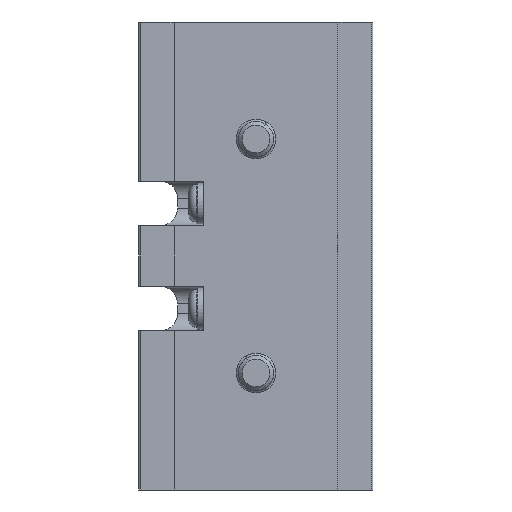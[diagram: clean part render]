
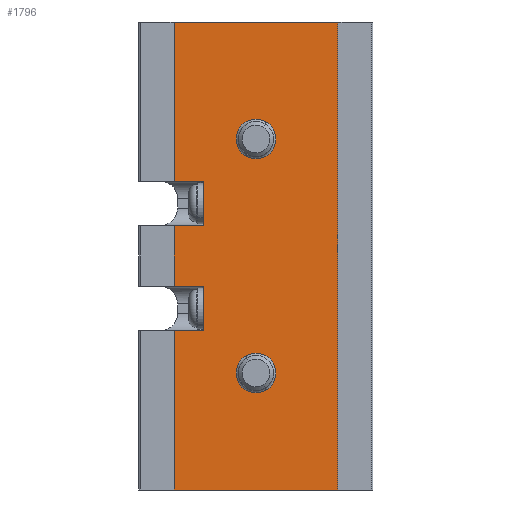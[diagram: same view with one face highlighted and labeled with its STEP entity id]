
A CAD part, front view. The second image highlights one B-rep face of the part: STEP entity #1796.
In plain terms, the highlighted planar face has unit normal (0, -1, 0).
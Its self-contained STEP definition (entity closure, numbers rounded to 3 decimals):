
#98 = LINE ( 'NONE', #1856, #3465 ) ;
#125 = LINE ( 'NONE', #11456, #5906 ) ;
#330 = CARTESIAN_POINT ( 'NONE',  ( 17., 0.05, 0. ) ) ;
#402 = CARTESIAN_POINT ( 'NONE',  ( 17., 0.05, 0. ) ) ;
#455 = EDGE_LOOP ( 'NONE', ( #9338, #3541 ) ) ;
#523 = EDGE_CURVE ( 'NONE', #3437, #1752, #8543, .T. ) ;
#588 = VERTEX_POINT ( 'NONE', #1415 ) ;
#723 = EDGE_CURVE ( 'NONE', #11069, #3855, #9045, .T. ) ;
#743 = CARTESIAN_POINT ( 'NONE',  ( 5.5, 0.05, 22.6 ) ) ;
#766 = CARTESIAN_POINT ( 'NONE',  ( 10., 0.05, 30. ) ) ;
#930 = ORIENTED_EDGE ( 'NONE', *, *, #11162, .T. ) ;
#1112 = VERTEX_POINT ( 'NONE', #11098 ) ;
#1276 = EDGE_CURVE ( 'NONE', #1112, #2395, #10818, .T. ) ;
#1371 = VECTOR ( 'NONE', #9632, 1000. ) ;
#1415 = CARTESIAN_POINT ( 'NONE',  ( 3., 0.05, 13.6 ) ) ;
#1487 = FACE_BOUND ( 'NONE', #7144, .T. ) ;
#1752 = VERTEX_POINT ( 'NONE', #5232 ) ;
#1796 = ADVANCED_FACE ( 'NONE', ( #9274, #1487, #5557 ), #7708, .F. ) ;
#1856 = CARTESIAN_POINT ( 'NONE',  ( 17., 0.05, 22.6 ) ) ;
#2174 = LINE ( 'NONE', #7062, #7511 ) ;
#2395 = VERTEX_POINT ( 'NONE', #7701 ) ;
#2406 = DIRECTION ( 'NONE',  ( 0., 0., -1. ) ) ;
#2436 = LINE ( 'NONE', #6234, #4003 ) ;
#2454 = CARTESIAN_POINT ( 'NONE',  ( 17., 0.05, 26.4 ) ) ;
#2558 = EDGE_CURVE ( 'NONE', #588, #11069, #13138, .T. ) ;
#2614 = DIRECTION ( 'NONE',  ( 1., 0., 0. ) ) ;
#2782 = LINE ( 'NONE', #4373, #8889 ) ;
#2853 = DIRECTION ( 'NONE',  ( 0., 0., 1. ) ) ;
#2863 = EDGE_CURVE ( 'NONE', #14311, #3437, #98, .T. ) ;
#2991 = ORIENTED_EDGE ( 'NONE', *, *, #9724, .F. ) ;
#3067 = CARTESIAN_POINT ( 'NONE',  ( 10., 0.05, 30. ) ) ;
#3082 = EDGE_CURVE ( 'NONE', #11553, #3429, #2436, .T. ) ;
#3429 = VERTEX_POINT ( 'NONE', #7356 ) ;
#3437 = VERTEX_POINT ( 'NONE', #11355 ) ;
#3465 = VECTOR ( 'NONE', #6427, 1000. ) ;
#3541 = ORIENTED_EDGE ( 'NONE', *, *, #9059, .T. ) ;
#3560 = VERTEX_POINT ( 'NONE', #10242 ) ;
#3615 = CIRCLE ( 'NONE', #16092, 1.7 ) ;
#3845 = CARTESIAN_POINT ( 'NONE',  ( 3., 0.05, 40. ) ) ;
#3855 = VERTEX_POINT ( 'NONE', #330 ) ;
#4003 = VECTOR ( 'NONE', #2853, 1000. ) ;
#4016 = EDGE_CURVE ( 'NONE', #588, #11553, #125, .T. ) ;
#4338 = CARTESIAN_POINT ( 'NONE',  ( 10., 0.05, 10. ) ) ;
#4373 = CARTESIAN_POINT ( 'NONE',  ( 17., 0.05, 40. ) ) ;
#4531 = CARTESIAN_POINT ( 'NONE',  ( 3., 0.05, 40. ) ) ;
#4560 = ORIENTED_EDGE ( 'NONE', *, *, #5608, .T. ) ;
#4601 = EDGE_CURVE ( 'NONE', #11779, #12522, #9069, .T. ) ;
#4700 = DIRECTION ( 'NONE',  ( 0., 1., 0. ) ) ;
#5180 = AXIS2_PLACEMENT_3D ( 'NONE', #14370, #10691, #8112 ) ;
#5232 = CARTESIAN_POINT ( 'NONE',  ( 3., 0.05, 17.4 ) ) ;
#5238 = ORIENTED_EDGE ( 'NONE', *, *, #16389, .T. ) ;
#5263 = DIRECTION ( 'NONE',  ( -1., 0., 0. ) ) ;
#5272 = VERTEX_POINT ( 'NONE', #11169 ) ;
#5441 = VECTOR ( 'NONE', #7753, 1000. ) ;
#5525 = ORIENTED_EDGE ( 'NONE', *, *, #4016, .F. ) ;
#5557 = FACE_OUTER_BOUND ( 'NONE', #11680, .T. ) ;
#5608 = EDGE_CURVE ( 'NONE', #13531, #5272, #13803, .T. ) ;
#5906 = VECTOR ( 'NONE', #8854, 1000. ) ;
#6075 = DIRECTION ( 'NONE',  ( -1., 0., 0. ) ) ;
#6167 = VECTOR ( 'NONE', #2614, 1000. ) ;
#6234 = CARTESIAN_POINT ( 'NONE',  ( 5.5, 0.05, 40. ) ) ;
#6427 = DIRECTION ( 'NONE',  ( -1., 0., 0. ) ) ;
#6634 = AXIS2_PLACEMENT_3D ( 'NONE', #766, #4700, #6075 ) ;
#6899 = DIRECTION ( 'NONE',  ( 0., 0., -1. ) ) ;
#6942 = ORIENTED_EDGE ( 'NONE', *, *, #9299, .F. ) ;
#7062 = CARTESIAN_POINT ( 'NONE',  ( 17., 0.05, 40. ) ) ;
#7144 = EDGE_LOOP ( 'NONE', ( #4560, #930 ) ) ;
#7356 = CARTESIAN_POINT ( 'NONE',  ( 5.5, 0.05, 17.4 ) ) ;
#7511 = VECTOR ( 'NONE', #6899, 1000. ) ;
#7701 = CARTESIAN_POINT ( 'NONE',  ( 10., 0.05, 8.3 ) ) ;
#7708 = PLANE ( 'NONE',  #5180 ) ;
#7725 = ORIENTED_EDGE ( 'NONE', *, *, #3082, .F. ) ;
#7753 = DIRECTION ( 'NONE',  ( -1., 0., 0. ) ) ;
#7988 = ORIENTED_EDGE ( 'NONE', *, *, #2863, .T. ) ;
#8112 = DIRECTION ( 'NONE',  ( -1., 0., 0. ) ) ;
#8322 = VECTOR ( 'NONE', #10541, 1000. ) ;
#8348 = ORIENTED_EDGE ( 'NONE', *, *, #2558, .T. ) ;
#8543 = LINE ( 'NONE', #4531, #1371 ) ;
#8590 = CARTESIAN_POINT ( 'NONE',  ( 5.5, 0.05, 40. ) ) ;
#8854 = DIRECTION ( 'NONE',  ( 1., 0., 0. ) ) ;
#8889 = VECTOR ( 'NONE', #9398, 1000. ) ;
#9045 = LINE ( 'NONE', #402, #16492 ) ;
#9059 = EDGE_CURVE ( 'NONE', #2395, #1112, #3615, .T. ) ;
#9068 = CARTESIAN_POINT ( 'NONE',  ( 5.5, 0.05, 13.6 ) ) ;
#9069 = LINE ( 'NONE', #2454, #6167 ) ;
#9112 = DIRECTION ( 'NONE',  ( -1., 0., 0. ) ) ;
#9274 = FACE_BOUND ( 'NONE', #455, .T. ) ;
#9299 = EDGE_CURVE ( 'NONE', #14311, #12522, #16385, .T. ) ;
#9338 = ORIENTED_EDGE ( 'NONE', *, *, #1276, .T. ) ;
#9361 = DIRECTION ( 'NONE',  ( 0., 1., 0. ) ) ;
#9398 = DIRECTION ( 'NONE',  ( 1., 0., 0. ) ) ;
#9632 = DIRECTION ( 'NONE',  ( 0., 0., -1. ) ) ;
#9724 = EDGE_CURVE ( 'NONE', #3429, #1752, #14086, .T. ) ;
#9798 = ORIENTED_EDGE ( 'NONE', *, *, #523, .T. ) ;
#10114 = CIRCLE ( 'NONE', #10670, 1.7 ) ;
#10242 = CARTESIAN_POINT ( 'NONE',  ( 17., 0.05, 40. ) ) ;
#10541 = DIRECTION ( 'NONE',  ( 0., 0., -1. ) ) ;
#10670 = AXIS2_PLACEMENT_3D ( 'NONE', #3067, #13185, #5263 ) ;
#10691 = DIRECTION ( 'NONE',  ( 0., 1., 0. ) ) ;
#10818 = CIRCLE ( 'NONE', #14284, 1.7 ) ;
#11069 = VERTEX_POINT ( 'NONE', #16113 ) ;
#11098 = CARTESIAN_POINT ( 'NONE',  ( 10., 0.05, 11.7 ) ) ;
#11162 = EDGE_CURVE ( 'NONE', #5272, #13531, #10114, .T. ) ;
#11169 = CARTESIAN_POINT ( 'NONE',  ( 10., 0.05, 28.3 ) ) ;
#11355 = CARTESIAN_POINT ( 'NONE',  ( 3., 0.05, 22.6 ) ) ;
#11366 = CARTESIAN_POINT ( 'NONE',  ( 3., 0.05, 40. ) ) ;
#11436 = DIRECTION ( 'NONE',  ( 0., 1., 0. ) ) ;
#11456 = CARTESIAN_POINT ( 'NONE',  ( 17., 0.05, 13.6 ) ) ;
#11553 = VERTEX_POINT ( 'NONE', #9068 ) ;
#11680 = EDGE_LOOP ( 'NONE', ( #6942, #7988, #9798, #2991, #7725, #5525, #8348, #13994, #15182, #13465, #5238, #15380 ) ) ;
#11779 = VERTEX_POINT ( 'NONE', #13810 ) ;
#12037 = EDGE_CURVE ( 'NONE', #3560, #3855, #2174, .T. ) ;
#12099 = VECTOR ( 'NONE', #13692, 1000. ) ;
#12522 = VERTEX_POINT ( 'NONE', #13192 ) ;
#12683 = DIRECTION ( 'NONE',  ( -1., 0., 0. ) ) ;
#12750 = CARTESIAN_POINT ( 'NONE',  ( 17., 0.05, 17.4 ) ) ;
#12887 = CARTESIAN_POINT ( 'NONE',  ( 3., 0.05, 40. ) ) ;
#12920 = VERTEX_POINT ( 'NONE', #3845 ) ;
#13012 = CARTESIAN_POINT ( 'NONE',  ( 10., 0.05, 31.7 ) ) ;
#13138 = LINE ( 'NONE', #12887, #8322 ) ;
#13185 = DIRECTION ( 'NONE',  ( 0., 1., 0. ) ) ;
#13192 = CARTESIAN_POINT ( 'NONE',  ( 5.5, 0.05, 26.4 ) ) ;
#13465 = ORIENTED_EDGE ( 'NONE', *, *, #14031, .F. ) ;
#13531 = VERTEX_POINT ( 'NONE', #13012 ) ;
#13692 = DIRECTION ( 'NONE',  ( 0., 0., 1. ) ) ;
#13803 = CIRCLE ( 'NONE', #6634, 1.7 ) ;
#13806 = VECTOR ( 'NONE', #2406, 1000. ) ;
#13810 = CARTESIAN_POINT ( 'NONE',  ( 3., 0.05, 26.4 ) ) ;
#13994 = ORIENTED_EDGE ( 'NONE', *, *, #723, .T. ) ;
#14009 = CARTESIAN_POINT ( 'NONE',  ( 10., 0.05, 10. ) ) ;
#14031 = EDGE_CURVE ( 'NONE', #12920, #3560, #2782, .T. ) ;
#14086 = LINE ( 'NONE', #12750, #5441 ) ;
#14229 = DIRECTION ( 'NONE',  ( 1., 0., 0. ) ) ;
#14284 = AXIS2_PLACEMENT_3D ( 'NONE', #14009, #11436, #12683 ) ;
#14311 = VERTEX_POINT ( 'NONE', #743 ) ;
#14370 = CARTESIAN_POINT ( 'NONE',  ( 17., 0.05, 40. ) ) ;
#15182 = ORIENTED_EDGE ( 'NONE', *, *, #12037, .F. ) ;
#15191 = LINE ( 'NONE', #11366, #13806 ) ;
#15380 = ORIENTED_EDGE ( 'NONE', *, *, #4601, .T. ) ;
#16092 = AXIS2_PLACEMENT_3D ( 'NONE', #4338, #9361, #9112 ) ;
#16113 = CARTESIAN_POINT ( 'NONE',  ( 3., 0.05, 0. ) ) ;
#16385 = LINE ( 'NONE', #8590, #12099 ) ;
#16389 = EDGE_CURVE ( 'NONE', #12920, #11779, #15191, .T. ) ;
#16492 = VECTOR ( 'NONE', #14229, 1000. ) ;
